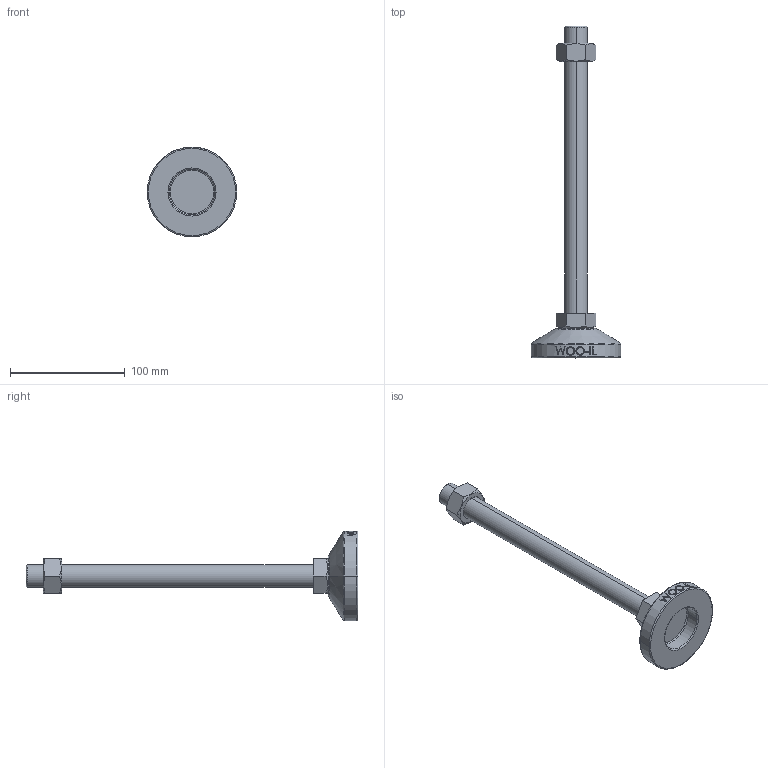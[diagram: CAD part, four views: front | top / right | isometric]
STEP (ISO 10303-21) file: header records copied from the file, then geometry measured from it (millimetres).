
FILE_DESCRIPTION (( 'STEP AP214' ), '1' );
FILE_NAME ('MF78-M20-250.step', '2021-02-03T08:21:53', ( '' ), ( '' ), 'SwSTEP 2.0', 'SolidWorks 2019', '' );
FILE_SCHEMA (( 'AUTOMOTIVE_DESIGN' ));
Length unit declared in the file: millimetre
Products named in the file (2): MF78-M20-250
Bounding box: 78 x 289 x 78 mm (x, y, z)
Volume: 175765.8 mm3; surface area: 36702.4 mm2
Topology: 3 solids, 3 shells, 106 faces, 243 edges, 154 vertices
Faces by surface type: plane 48, cylinder 18, bspline 16, cone 14, torus 10
Entity records: 4532 total; most frequent: CARTESIAN_POINT 2189, ORIENTED_EDGE 486, DIRECTION 439, EDGE_CURVE 243, AXIS2_PLACEMENT_3D 170, VERTEX_POINT 154, EDGE_LOOP 119, ADVANCED_FACE 106
